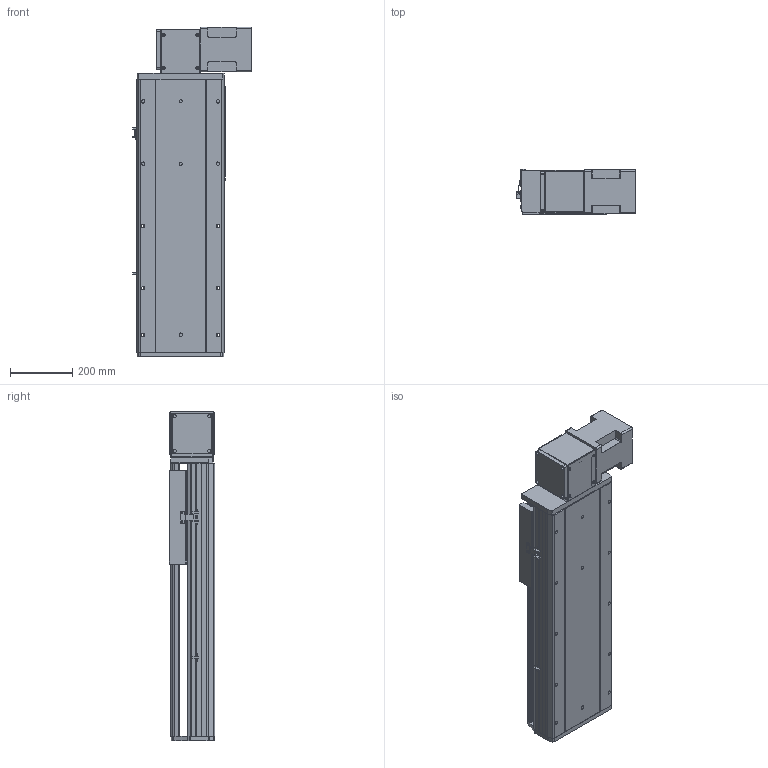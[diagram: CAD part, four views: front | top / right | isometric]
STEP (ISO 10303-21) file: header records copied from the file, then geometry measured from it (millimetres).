
FILE_DESCRIPTION (( 'STEP AP214' ), '1' );
FILE_NAME ('RTB28S-XX-450-BL-M100-XX-C4.STEP', '2025-12-22T02:16:51', ( '' ), ( '' ), 'SwSTEP 2.0', 'SolidWorks 2018', '' );
FILE_SCHEMA (( 'AUTOMOTIVE_DESIGN' ));
Length unit declared in the file: millimetre
Products named in the file (4): RTB28S-GY-004^RTB28S-XX-XX-BL-M100-XX-C4; RTB28S-XX-450-BL-M100-XX-C4; RTB28S-GY-008^RTB28S-XX-XX-BL-M100-XX-C4; RTB28S-GY-011^RTB28S-XX-XX-BL-M100-XX-C4
Assembly tree (3 placements, depth 2):
  RTB28S-XX-450-BL-M100-XX-C4
    RTB28S-GY-011^RTB28S-XX-XX-BL-M100-XX-C4
    RTB28S-GY-004^RTB28S-XX-XX-BL-M100-XX-C4
    RTB28S-GY-008^RTB28S-XX-XX-BL-M100-XX-C4
Bounding box: 380.7 x 145 x 1057 mm (x, y, z)
Volume: 20954063.5 mm3; surface area: 2079486.8 mm2
Topology: 3 solids, 4 shells, 758 faces, 1998 edges, 1268 vertices
Faces by surface type: plane 339, cylinder 335, cone 80, torus 4
Entity records: 28055 total; most frequent: CARTESIAN_POINT 4552, DIRECTION 4224, ORIENTED_EDGE 3932, EDGE_CURVE 1966, AXIS2_PLACEMENT_3D 1512, VERTEX_POINT 1268, LINE 1200, VECTOR 1200
